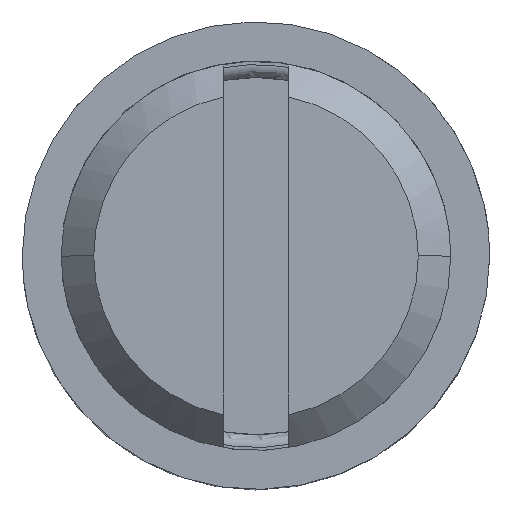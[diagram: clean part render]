
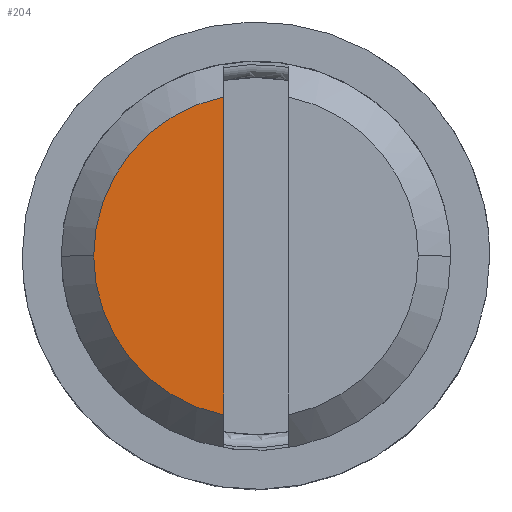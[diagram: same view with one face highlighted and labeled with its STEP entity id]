
A CAD part, top view. The second image highlights one B-rep face of the part: STEP entity #204.
In plain terms, the highlighted planar face has unit normal (0, 0, 1).
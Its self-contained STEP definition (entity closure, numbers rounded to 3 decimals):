
#204 = ADVANCED_FACE('',(#205),#219,.F.);
#205 = FACE_BOUND('',#206,.T.);
#206 = EDGE_LOOP('',(#207,#230,#247));
#207 = ORIENTED_EDGE('',*,*,#208,.F.);
#208 = EDGE_CURVE('',#209,#211,#213,.T.);
#209 = VERTEX_POINT('',#210);
#210 = CARTESIAN_POINT('',(3.1,6.049,28.7));
#211 = VERTEX_POINT('',#212);
#212 = CARTESIAN_POINT('',(3.1,1.151,28.7));
#213 = SURFACE_CURVE('',#214,(#218),.PCURVE_S1.);
#214 = LINE('',#215,#216);
#215 = CARTESIAN_POINT('',(3.1,3.6,28.7));
#216 = VECTOR('',#217,1.);
#217 = DIRECTION('',(0.,-1.,0.));
#218 = PCURVE('',#219,#224);
#219 = PLANE('',#220);
#220 = AXIS2_PLACEMENT_3D('',#221,#222,#223);
#221 = CARTESIAN_POINT('',(3.6,3.6,28.7));
#222 = DIRECTION('',(0.,0.,-1.));
#223 = DIRECTION('',(-1.,0.,0.));
#224 = DEFINITIONAL_REPRESENTATION('',(#225),#229);
#225 = LINE('',#226,#227);
#226 = CARTESIAN_POINT('',(0.5,0.));
#227 = VECTOR('',#228,1.);
#228 = DIRECTION('',(0.,-1.));
#229 = ( GEOMETRIC_REPRESENTATION_CONTEXT(2) 
PARAMETRIC_REPRESENTATION_CONTEXT() REPRESENTATION_CONTEXT('2D SPACE',''
  ) );
#230 = ORIENTED_EDGE('',*,*,#231,.F.);
#231 = EDGE_CURVE('',#232,#209,#234,.T.);
#232 = VERTEX_POINT('',#233);
#233 = CARTESIAN_POINT('',(1.1,3.6,28.7));
#234 = SURFACE_CURVE('',#235,(#240),.PCURVE_S1.);
#235 = CIRCLE('',#236,2.5);
#236 = AXIS2_PLACEMENT_3D('',#237,#238,#239);
#237 = CARTESIAN_POINT('',(3.6,3.6,28.7));
#238 = DIRECTION('',(0.,0.,-1.));
#239 = DIRECTION('',(-1.,0.,0.));
#240 = PCURVE('',#219,#241);
#241 = DEFINITIONAL_REPRESENTATION('',(#242),#246);
#242 = CIRCLE('',#243,2.5);
#243 = AXIS2_PLACEMENT_2D('',#244,#245);
#244 = CARTESIAN_POINT('',(0.,0.));
#245 = DIRECTION('',(1.,0.));
#246 = ( GEOMETRIC_REPRESENTATION_CONTEXT(2) 
PARAMETRIC_REPRESENTATION_CONTEXT() REPRESENTATION_CONTEXT('2D SPACE',''
  ) );
#247 = ORIENTED_EDGE('',*,*,#248,.F.);
#248 = EDGE_CURVE('',#211,#232,#249,.T.);
#249 = SURFACE_CURVE('',#250,(#255),.PCURVE_S1.);
#250 = CIRCLE('',#251,2.5);
#251 = AXIS2_PLACEMENT_3D('',#252,#253,#254);
#252 = CARTESIAN_POINT('',(3.6,3.6,28.7));
#253 = DIRECTION('',(0.,0.,-1.));
#254 = DIRECTION('',(-1.,0.,0.));
#255 = PCURVE('',#219,#256);
#256 = DEFINITIONAL_REPRESENTATION('',(#257),#261);
#257 = CIRCLE('',#258,2.5);
#258 = AXIS2_PLACEMENT_2D('',#259,#260);
#259 = CARTESIAN_POINT('',(0.,0.));
#260 = DIRECTION('',(1.,0.));
#261 = ( GEOMETRIC_REPRESENTATION_CONTEXT(2) 
PARAMETRIC_REPRESENTATION_CONTEXT() REPRESENTATION_CONTEXT('2D SPACE',''
  ) );
